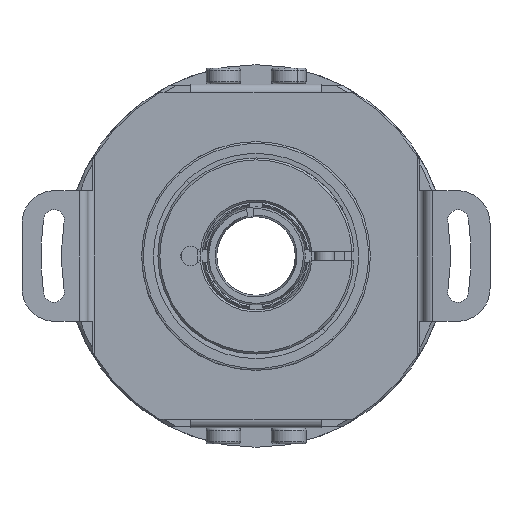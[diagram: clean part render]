
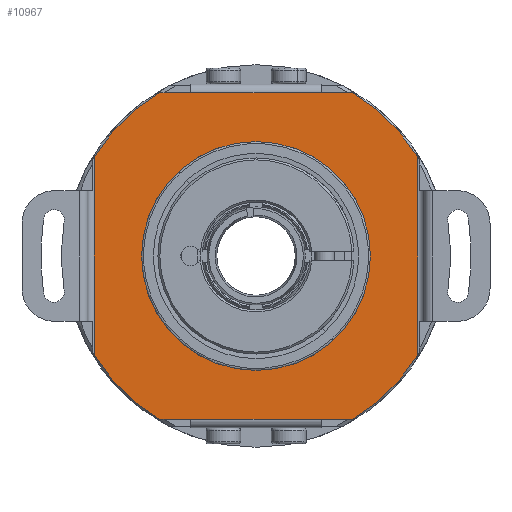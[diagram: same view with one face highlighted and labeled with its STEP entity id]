
A CAD part, front view. The second image highlights one B-rep face of the part: STEP entity #10967.
In plain terms, the highlighted planar face has unit normal (0, -1, 0).
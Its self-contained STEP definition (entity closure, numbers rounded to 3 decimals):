
#144 = CIRCLE ( 'NONE', #15410, 29. ) ;
#309 = VECTOR ( 'NONE', #7176, 1000. ) ;
#327 = CARTESIAN_POINT ( 'NONE',  ( 24.7, -4.194, -35.2 ) ) ;
#456 = VECTOR ( 'NONE', #36528, 1000. ) ;
#481 = EDGE_CURVE ( 'NONE', #34280, #27301, #23807, .T. ) ;
#571 = CARTESIAN_POINT ( 'NONE',  ( 0., -4.194, 0. ) ) ;
#831 = CARTESIAN_POINT ( 'NONE',  ( -10., -4.194, 25. ) ) ;
#1191 = ORIENTED_EDGE ( 'NONE', *, *, #31726, .F. ) ;
#1630 = LINE ( 'NONE', #327, #20076 ) ;
#1884 = CIRCLE ( 'NONE', #6334, 17.5 ) ;
#2128 = VECTOR ( 'NONE', #8330, 1000. ) ;
#2142 = AXIS2_PLACEMENT_3D ( 'NONE', #22126, #17002, #28705 ) ;
#2322 = VERTEX_POINT ( 'NONE', #19565 ) ;
#3019 = ORIENTED_EDGE ( 'NONE', *, *, #13486, .T. ) ;
#3704 = CARTESIAN_POINT ( 'NONE',  ( -10., -4.194, -25. ) ) ;
#3733 = VECTOR ( 'NONE', #21938, 1000. ) ;
#4162 = LINE ( 'NONE', #28116, #38340 ) ;
#4494 = LINE ( 'NONE', #19830, #34962 ) ;
#5336 = CARTESIAN_POINT ( 'NONE',  ( 0., -4.194, 0. ) ) ;
#5417 = EDGE_CURVE ( 'NONE', #37299, #27301, #20539, .T. ) ;
#5527 = ORIENTED_EDGE ( 'NONE', *, *, #30792, .F. ) ;
#6224 = CARTESIAN_POINT ( 'NONE',  ( 14.697, -4.194, 25. ) ) ;
#6334 = AXIS2_PLACEMENT_3D ( 'NONE', #14136, #25978, #31795 ) ;
#7176 = DIRECTION ( 'NONE',  ( -1., 0., 0. ) ) ;
#7477 = CARTESIAN_POINT ( 'NONE',  ( -14.697, -4.194, 25. ) ) ;
#7949 = CARTESIAN_POINT ( 'NONE',  ( 14.697, -4.194, -25. ) ) ;
#8151 = VERTEX_POINT ( 'NONE', #7477 ) ;
#8330 = DIRECTION ( 'NONE',  ( 1., 0., 0. ) ) ;
#8853 = VERTEX_POINT ( 'NONE', #23570 ) ;
#9269 = VERTEX_POINT ( 'NONE', #26350 ) ;
#9693 = EDGE_CURVE ( 'NONE', #8151, #18227, #28140, .T. ) ;
#9710 = CARTESIAN_POINT ( 'NONE',  ( 10., -4.194, -25. ) ) ;
#9720 = ORIENTED_EDGE ( 'NONE', *, *, #26175, .F. ) ;
#10967 = ADVANCED_FACE ( 'NONE', ( #32208, #37725 ), #25205, .T. ) ;
#12491 = CARTESIAN_POINT ( 'NONE',  ( 0., -4.194, 17.5 ) ) ;
#13472 = DIRECTION ( 'NONE',  ( 0., -1., 0. ) ) ;
#13486 = EDGE_CURVE ( 'NONE', #34280, #18227, #35102, .T. ) ;
#13582 = DIRECTION ( 'NONE',  ( 1., 0., 0. ) ) ;
#13797 = DIRECTION ( 'NONE',  ( -1., 0., 0. ) ) ;
#13827 = EDGE_CURVE ( 'NONE', #2322, #8853, #22977, .T. ) ;
#14131 = CARTESIAN_POINT ( 'NONE',  ( -5., -4.194, -35.2 ) ) ;
#14136 = CARTESIAN_POINT ( 'NONE',  ( 0., -4.194, 0. ) ) ;
#14942 = VERTEX_POINT ( 'NONE', #7949 ) ;
#15410 = AXIS2_PLACEMENT_3D ( 'NONE', #571, #33004, #17985 ) ;
#15865 = VECTOR ( 'NONE', #30130, 1000. ) ;
#17002 = DIRECTION ( 'NONE',  ( 0., -1., 0. ) ) ;
#17055 = AXIS2_PLACEMENT_3D ( 'NONE', #33864, #13472, #13582 ) ;
#17062 = VERTEX_POINT ( 'NONE', #9710 ) ;
#17782 = CARTESIAN_POINT ( 'NONE',  ( 10., -4.194, 25. ) ) ;
#17985 = DIRECTION ( 'NONE',  ( 0., 0., 1. ) ) ;
#18227 = VERTEX_POINT ( 'NONE', #831 ) ;
#18289 = ORIENTED_EDGE ( 'NONE', *, *, #481, .F. ) ;
#18442 = AXIS2_PLACEMENT_3D ( 'NONE', #5336, #34625, #25571 ) ;
#19565 = CARTESIAN_POINT ( 'NONE',  ( -24.7, -4.194, -15.196 ) ) ;
#19643 = CIRCLE ( 'NONE', #2142, 17.5 ) ;
#19676 = CARTESIAN_POINT ( 'NONE',  ( 25., -4.194, 25. ) ) ;
#19779 = VERTEX_POINT ( 'NONE', #3704 ) ;
#19830 = CARTESIAN_POINT ( 'NONE',  ( 10., -4.194, -25. ) ) ;
#20076 = VECTOR ( 'NONE', #23693, 1000. ) ;
#20137 = LINE ( 'NONE', #30489, #309 ) ;
#20298 = EDGE_CURVE ( 'NONE', #2322, #29841, #4162, .T. ) ;
#20539 = CIRCLE ( 'NONE', #17055, 29. ) ;
#20689 = CARTESIAN_POINT ( 'NONE',  ( 0., -4.194, 0. ) ) ;
#21409 = ORIENTED_EDGE ( 'NONE', *, *, #5417, .T. ) ;
#21728 = CARTESIAN_POINT ( 'NONE',  ( -5., -4.194, -25. ) ) ;
#21938 = DIRECTION ( 'NONE',  ( 1., 0., 0. ) ) ;
#22126 = CARTESIAN_POINT ( 'NONE',  ( 0., -4.194, 0. ) ) ;
#22144 = EDGE_CURVE ( 'NONE', #17062, #19779, #23671, .T. ) ;
#22934 = CARTESIAN_POINT ( 'NONE',  ( -24.7, -4.194, 15.196 ) ) ;
#22977 = CIRCLE ( 'NONE', #18442, 29. ) ;
#23570 = CARTESIAN_POINT ( 'NONE',  ( -14.697, -4.194, -25. ) ) ;
#23671 = LINE ( 'NONE', #21728, #15865 ) ;
#23693 = DIRECTION ( 'NONE',  ( 0., 0., 1. ) ) ;
#23807 = LINE ( 'NONE', #19676, #2128 ) ;
#24647 = EDGE_CURVE ( 'NONE', #19779, #8853, #20137, .T. ) ;
#24834 = AXIS2_PLACEMENT_3D ( 'NONE', #20689, #29727, #32605 ) ;
#25205 = PLANE ( 'NONE',  #25219 ) ;
#25219 = AXIS2_PLACEMENT_3D ( 'NONE', #14131, #32062, #35168 ) ;
#25492 = ORIENTED_EDGE ( 'NONE', *, *, #20298, .F. ) ;
#25541 = CARTESIAN_POINT ( 'NONE',  ( 24.7, -4.194, 15.196 ) ) ;
#25571 = DIRECTION ( 'NONE',  ( 0., 0., -1. ) ) ;
#25978 = DIRECTION ( 'NONE',  ( 0., -1., 0. ) ) ;
#26075 = DIRECTION ( 'NONE',  ( 0., 0., 1. ) ) ;
#26175 = EDGE_CURVE ( 'NONE', #36684, #27493, #1884, .T. ) ;
#26350 = CARTESIAN_POINT ( 'NONE',  ( 24.7, -4.194, -15.196 ) ) ;
#27301 = VERTEX_POINT ( 'NONE', #6224 ) ;
#27493 = VERTEX_POINT ( 'NONE', #30164 ) ;
#27908 = EDGE_CURVE ( 'NONE', #9269, #37299, #1630, .T. ) ;
#28116 = CARTESIAN_POINT ( 'NONE',  ( -24.7, -4.194, -35.2 ) ) ;
#28140 = LINE ( 'NONE', #36673, #3733 ) ;
#28304 = ORIENTED_EDGE ( 'NONE', *, *, #35371, .F. ) ;
#28599 = ORIENTED_EDGE ( 'NONE', *, *, #24647, .F. ) ;
#28705 = DIRECTION ( 'NONE',  ( 0., 0., -1. ) ) ;
#28938 = EDGE_CURVE ( 'NONE', #29841, #8151, #144, .T. ) ;
#29727 = DIRECTION ( 'NONE',  ( 0., 1., 0. ) ) ;
#29841 = VERTEX_POINT ( 'NONE', #22934 ) ;
#30130 = DIRECTION ( 'NONE',  ( -1., 0., 0. ) ) ;
#30164 = CARTESIAN_POINT ( 'NONE',  ( 0., -4.194, -17.5 ) ) ;
#30489 = CARTESIAN_POINT ( 'NONE',  ( -25., -4.194, -25. ) ) ;
#30792 = EDGE_CURVE ( 'NONE', #14942, #17062, #4494, .T. ) ;
#30824 = CARTESIAN_POINT ( 'NONE',  ( -5., -4.194, 25. ) ) ;
#31635 = EDGE_LOOP ( 'NONE', ( #25492, #36076, #28599, #36766, #5527, #28304, #34899, #21409, #18289, #3019, #31887, #36065 ) ) ;
#31726 = EDGE_CURVE ( 'NONE', #27493, #36684, #19643, .T. ) ;
#31795 = DIRECTION ( 'NONE',  ( 0., 0., -1. ) ) ;
#31887 = ORIENTED_EDGE ( 'NONE', *, *, #9693, .F. ) ;
#32062 = DIRECTION ( 'NONE',  ( 0., -1., 0. ) ) ;
#32208 = FACE_OUTER_BOUND ( 'NONE', #31635, .T. ) ;
#32605 = DIRECTION ( 'NONE',  ( 0., 0., -1. ) ) ;
#32692 = CIRCLE ( 'NONE', #24834, 29. ) ;
#33004 = DIRECTION ( 'NONE',  ( 0., 1., 0. ) ) ;
#33034 = EDGE_LOOP ( 'NONE', ( #1191, #9720 ) ) ;
#33864 = CARTESIAN_POINT ( 'NONE',  ( 0., -4.194, 0. ) ) ;
#34280 = VERTEX_POINT ( 'NONE', #17782 ) ;
#34625 = DIRECTION ( 'NONE',  ( 0., -1., 0. ) ) ;
#34899 = ORIENTED_EDGE ( 'NONE', *, *, #27908, .T. ) ;
#34962 = VECTOR ( 'NONE', #13797, 1000. ) ;
#35102 = LINE ( 'NONE', #30824, #456 ) ;
#35168 = DIRECTION ( 'NONE',  ( 0., 0., -1. ) ) ;
#35371 = EDGE_CURVE ( 'NONE', #9269, #14942, #32692, .T. ) ;
#36065 = ORIENTED_EDGE ( 'NONE', *, *, #28938, .F. ) ;
#36076 = ORIENTED_EDGE ( 'NONE', *, *, #13827, .T. ) ;
#36528 = DIRECTION ( 'NONE',  ( -1., 0., 0. ) ) ;
#36673 = CARTESIAN_POINT ( 'NONE',  ( -10., -4.194, 25. ) ) ;
#36684 = VERTEX_POINT ( 'NONE', #12491 ) ;
#36766 = ORIENTED_EDGE ( 'NONE', *, *, #22144, .F. ) ;
#37299 = VERTEX_POINT ( 'NONE', #25541 ) ;
#37725 = FACE_BOUND ( 'NONE', #33034, .T. ) ;
#38340 = VECTOR ( 'NONE', #26075, 1000. ) ;
